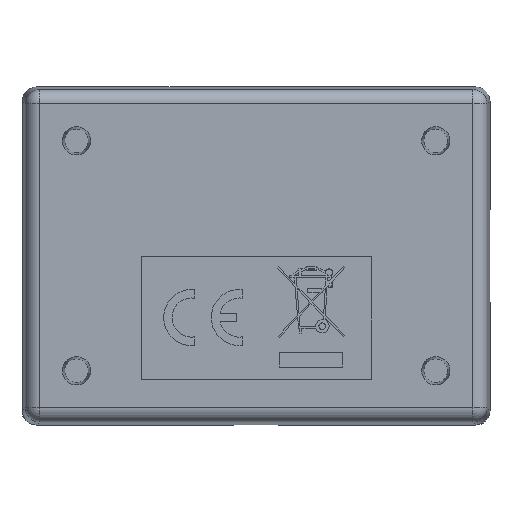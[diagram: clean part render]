
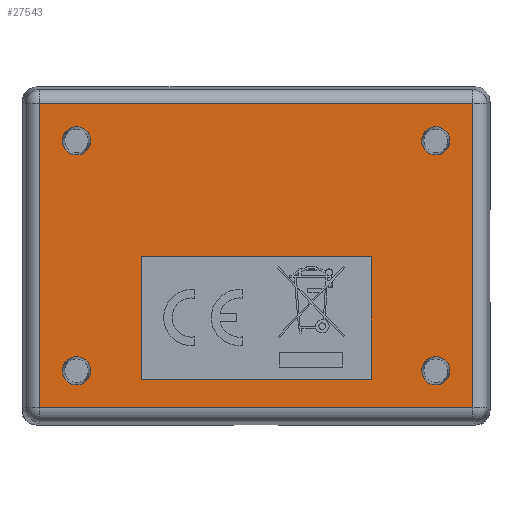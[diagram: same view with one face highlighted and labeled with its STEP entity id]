
A CAD part, front view. The second image highlights one B-rep face of the part: STEP entity #27543.
In plain terms, the highlighted planar face has unit normal (0, -1, 0) as drawn and (0, 0, -1) by its records, which use the part's own axes.
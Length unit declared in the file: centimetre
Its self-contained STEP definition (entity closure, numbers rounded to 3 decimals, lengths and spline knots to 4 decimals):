
#6629=CIRCLE('',#28766,0.1249);
#6630=CIRCLE('',#28767,0.1249);
#6631=CIRCLE('',#28768,0.1249);
#6632=CIRCLE('',#28769,0.1249);
#7980=VERTEX_POINT('',#36599);
#7981=VERTEX_POINT('',#36601);
#7983=VERTEX_POINT('',#36607);
#7985=VERTEX_POINT('',#36613);
#8106=VERTEX_POINT('',#37685);
#8107=VERTEX_POINT('',#37687);
#8108=VERTEX_POINT('',#37689);
#8109=VERTEX_POINT('',#37691);
#8110=VERTEX_POINT('',#37693);
#8111=VERTEX_POINT('',#37694);
#8112=VERTEX_POINT('',#37696);
#8113=VERTEX_POINT('',#37698);
#10246=VECTOR('',#30993,1.);
#10249=VECTOR('',#30997,1.);
#10252=VECTOR('',#31001,1.);
#10255=VECTOR('',#31005,1.);
#10416=VECTOR('',#31238,1.);
#10417=VECTOR('',#31239,1.);
#10418=VECTOR('',#31240,1.);
#10419=VECTOR('',#31241,1.);
#12745=LINE('',#36600,#10246);
#12748=LINE('',#36606,#10249);
#12751=LINE('',#36612,#10252);
#12754=LINE('',#36617,#10255);
#12915=LINE('',#37692,#10416);
#12916=LINE('',#37695,#10417);
#12917=LINE('',#37697,#10418);
#12918=LINE('',#37699,#10419);
#15333=EDGE_CURVE('',#7981,#7980,#12745,.F.);
#15336=EDGE_CURVE('',#7983,#7981,#12748,.F.);
#15339=EDGE_CURVE('',#7985,#7983,#12751,.F.);
#15342=EDGE_CURVE('',#7980,#7985,#12754,.F.);
#15523=EDGE_CURVE('',#8106,#8106,#6629,.F.);
#15524=EDGE_CURVE('',#8107,#8107,#6630,.F.);
#15525=EDGE_CURVE('',#8108,#8108,#6631,.F.);
#15526=EDGE_CURVE('',#8109,#8109,#6632,.F.);
#15527=EDGE_CURVE('',#8110,#8111,#12915,.T.);
#15528=EDGE_CURVE('',#8112,#8110,#12916,.T.);
#15529=EDGE_CURVE('',#8113,#8112,#12917,.T.);
#15530=EDGE_CURVE('',#8111,#8113,#12918,.T.);
#19604=ORIENTED_EDGE('',*,*,#15523,.T.);
#19605=ORIENTED_EDGE('',*,*,#15524,.T.);
#19606=ORIENTED_EDGE('',*,*,#15525,.T.);
#19607=ORIENTED_EDGE('',*,*,#15526,.T.);
#19608=ORIENTED_EDGE('',*,*,#15527,.F.);
#19609=ORIENTED_EDGE('',*,*,#15528,.F.);
#19610=ORIENTED_EDGE('',*,*,#15529,.F.);
#19611=ORIENTED_EDGE('',*,*,#15530,.F.);
#19612=ORIENTED_EDGE('',*,*,#15333,.T.);
#19613=ORIENTED_EDGE('',*,*,#15342,.T.);
#19614=ORIENTED_EDGE('',*,*,#15339,.T.);
#19615=ORIENTED_EDGE('',*,*,#15336,.T.);
#24909=EDGE_LOOP('',(#19604));
#24910=EDGE_LOOP('',(#19605));
#24911=EDGE_LOOP('',(#19606));
#24912=EDGE_LOOP('',(#19607));
#24913=EDGE_LOOP('',(#19608,#19609,#19610,#19611));
#24914=EDGE_LOOP('',(#19612,#19613,#19614,#19615));
#26237=FACE_BOUND('',#24909,.T.);
#26238=FACE_BOUND('',#24910,.T.);
#26239=FACE_BOUND('',#24911,.T.);
#26240=FACE_BOUND('',#24912,.T.);
#26241=FACE_BOUND('',#24913,.T.);
#26242=FACE_BOUND('',#24914,.T.);
#27543=ADVANCED_FACE('',(#26237,#26238,#26239,#26240,#26241,#26242),#45558,
 .F.);
#28765=AXIS2_PLACEMENT_3D('',#37683,#31229,$);
#28766=AXIS2_PLACEMENT_3D('',#37684,#31230,#31231);
#28767=AXIS2_PLACEMENT_3D('',#37686,#31232,#31233);
#28768=AXIS2_PLACEMENT_3D('',#37688,#31234,#31235);
#28769=AXIS2_PLACEMENT_3D('',#37690,#31236,#31237);
#30993=DIRECTION('',(-1.,0.,0.));
#30997=DIRECTION('',(0.,1.,0.));
#31001=DIRECTION('',(1.,0.,0.));
#31005=DIRECTION('',(0.,-1.,0.));
#31229=DIRECTION('',(0.,0.,1.));
#31230=DIRECTION('',(0.,0.,-1.));
#31231=DIRECTION('',(-0.125,0.,0.));
#31232=DIRECTION('',(0.,0.,-1.));
#31233=DIRECTION('',(-0.125,0.,0.));
#31234=DIRECTION('',(0.,0.,-1.));
#31235=DIRECTION('',(-0.125,0.,0.));
#31236=DIRECTION('',(0.,0.,-1.));
#31237=DIRECTION('',(-0.125,0.,0.));
#31238=DIRECTION('',(-1.,0.,0.));
#31239=DIRECTION('',(0.,1.,0.));
#31240=DIRECTION('',(1.,0.,0.));
#31241=DIRECTION('',(0.,-1.,0.));
#36599=CARTESIAN_POINT('',(1.091,-1.0176,-0.0032));
#36600=CARTESIAN_POINT('',(0.1374,-1.0176,-0.0032));
#36601=CARTESIAN_POINT('',(0.0083,-1.0176,-0.0032));
#36606=CARTESIAN_POINT('',(0.0083,0.,-0.0032));
#36607=CARTESIAN_POINT('',(0.0083,1.0176,-0.0032));
#36612=CARTESIAN_POINT('',(0.1374,1.0176,-0.0032));
#36613=CARTESIAN_POINT('',(1.091,1.0176,-0.0032));
#36617=CARTESIAN_POINT('',(1.091,0.,-0.0032));
#37683=CARTESIAN_POINT('',(0.,0.,-0.0032));
#37684=CARTESIAN_POINT('',(1.016,1.5875,-0.0032));
#37685=CARTESIAN_POINT('',(1.1409,1.5875,-0.0032));
#37686=CARTESIAN_POINT('',(1.016,-1.5875,-0.0032));
#37687=CARTESIAN_POINT('',(1.1409,-1.5875,-0.0032));
#37688=CARTESIAN_POINT('',(-1.016,-1.5875,-0.0032));
#37689=CARTESIAN_POINT('',(-0.8911,-1.5875,-0.0032));
#37690=CARTESIAN_POINT('',(-1.016,1.5875,-0.0032));
#37691=CARTESIAN_POINT('',(-0.8911,1.5875,-0.0032));
#37692=CARTESIAN_POINT('',(0.,1.9149,-0.0032));
#37693=CARTESIAN_POINT('',(1.3434,1.9149,-0.0032));
#37694=CARTESIAN_POINT('',(-1.3434,1.9149,-0.0032));
#37695=CARTESIAN_POINT('',(1.3434,0.,-0.0032));
#37696=CARTESIAN_POINT('',(1.3434,-1.9149,-0.0032));
#37697=CARTESIAN_POINT('',(0.,-1.9149,-0.0032));
#37698=CARTESIAN_POINT('',(-1.3434,-1.9149,-0.0032));
#37699=CARTESIAN_POINT('',(-1.3434,0.,-0.0032));
#45558=PLANE('',#28765);
